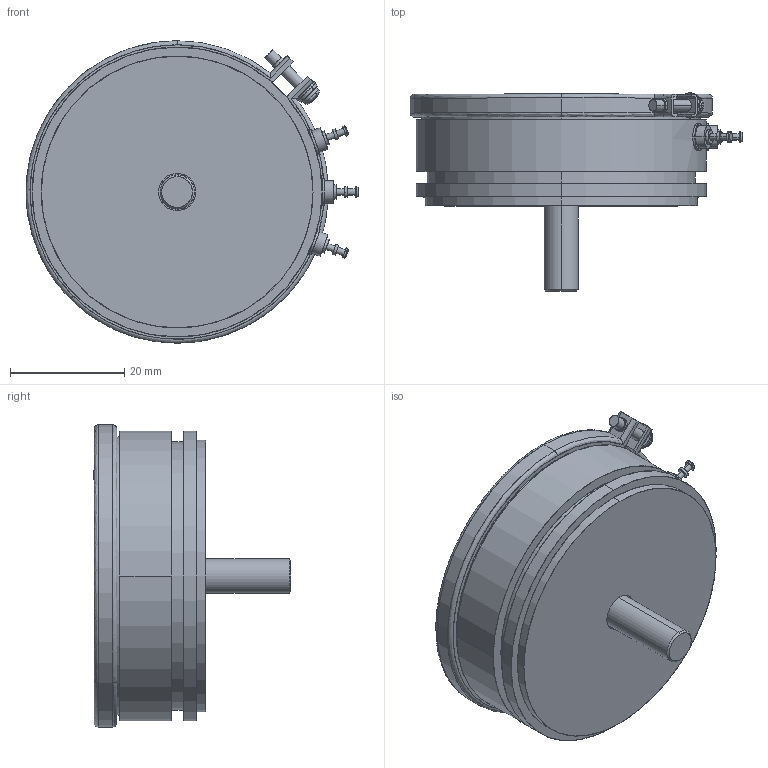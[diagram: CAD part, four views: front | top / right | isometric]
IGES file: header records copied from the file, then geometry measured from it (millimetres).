
Start section: SolidWorks IGES file using analytic representation for surfaces
Global section: file name: O:\08-Produkte_DatBlät&Beiblät&PrLi&Appl&Wettb\8-1 Megatron\8-1-09 Potentiometer\8-1-9-1 Datenblätter\MCPxx\MCP50 STEP;IGES\MCP50.IGS; native system: SolidWorks 2007; preprocessor: SolidWorks 2007; author: AlessandroC; date: 100907.110647; units: millimetre
Bounding box: 58.2 x 34.7 x 53 mm (x, y, z)
Surface area: 17013.4 mm2 (no closed solid volume)
Topology: 0 solids, 0 shells, 798 faces, 9152 edges, 9146 vertices
Faces by surface type: revolution 443, bspline 355
